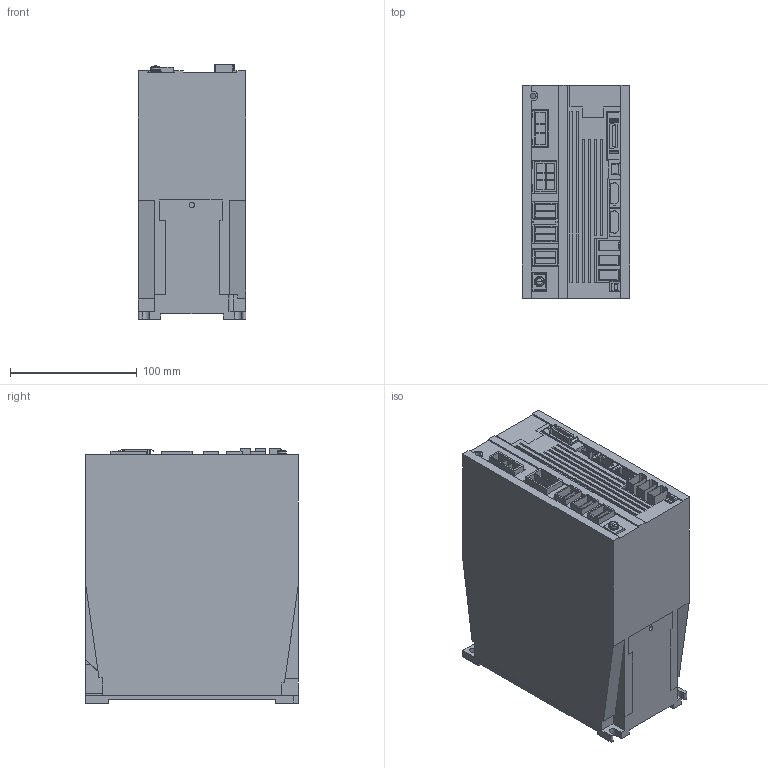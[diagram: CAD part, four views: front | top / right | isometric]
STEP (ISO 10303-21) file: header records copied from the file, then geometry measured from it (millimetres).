
FILE_DESCRIPTION((''),'2;1');
FILE_NAME('J4W3-222B_A_ASM','2011-12-01T',('TY34604'),(''),'PRO/ENGINEER BY PARAMETRIC TECHNOLOGY CORPORATION, 2010160','PRO/ENGINEER BY PARAMETRIC TECHNOLOGY CORPORATION, 2010160','');
FILE_SCHEMA(('CONFIG_CONTROL_DESIGN'));
Length unit declared in the file: millimetre
Products named in the file (17): J4W3-222-444B-CHASSIS; J4W3-222-444B-CASE; J4W-LENZ; FAN60; J4W3-222-444B-FANCOVER; J4W-CN1; J4W-CN2; J4W-CN3; J4W-CN4; J4W-CN5; J4W-CN8; J4W-CNP1; J4W-CNP2; J4W-CNP3; J4W-PE; SW-PW-P-NA-M4X8; J4W3-222B_A_ASM
Assembly tree (21 placements, depth 2):
  J4W3-222B_A_ASM
    J4W3-222-444B-CHASSIS
    J4W3-222-444B-CASE
    J4W-LENZ
    FAN60
    J4W3-222-444B-FANCOVER
    J4W-CN1  x2
    J4W-CN2  x3
    J4W-CN3
    J4W-CN4
    J4W-CN5
    J4W-CN8
    J4W-CNP1
    J4W-CNP2
    J4W-CNP3  x3
    J4W-PE
    SW-PW-P-NA-M4X8
Bounding box: 85 x 168 x 201 mm (x, y, z)
Volume: 539257.3 mm3; surface area: 314379.4 mm2
Topology: 22 solids, 22 shells, 745 faces, 2049 edges, 1362 vertices
Faces by surface type: plane 630, cylinder 109, cone 2, torus 2, sphere 2
Entity records: 20822 total; most frequent: CARTESIAN_POINT 3637, ORIENTED_EDGE 3554, DIRECTION 3365, EDGE_CURVE 1777, VECTOR 1545, LINE 1545, VERTEX_POINT 1182, AXIS2_PLACEMENT_3D 910
